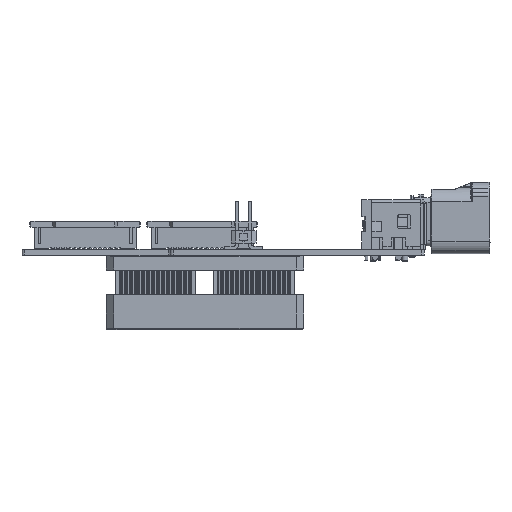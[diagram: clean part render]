
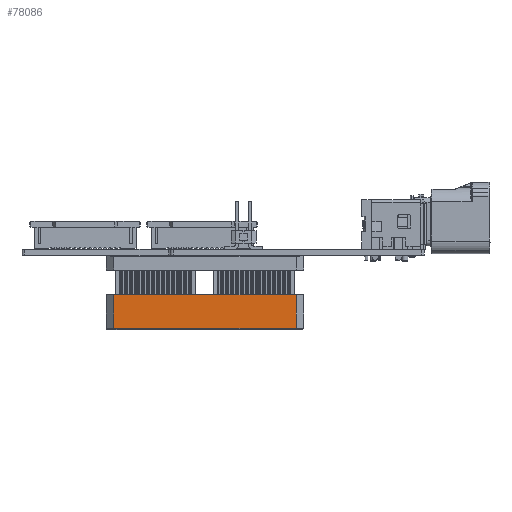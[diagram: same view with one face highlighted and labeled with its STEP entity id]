
A CAD part, left-side view. The second image highlights one B-rep face of the part: STEP entity #78086.
In plain terms, the highlighted planar face has unit normal (-1, 0, 0) as drawn and (0, 0, -1) by its records, which use the part's own axes.
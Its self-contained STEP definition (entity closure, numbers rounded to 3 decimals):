
#4699=FACE_OUTER_BOUND('',#8800,.T.);
#8800=EDGE_LOOP('',(#67575,#67576,#67577,#67578));
#17377=LINE('',#133028,#27255);
#17381=LINE('',#133036,#27259);
#17383=LINE('',#133039,#27261);
#17384=LINE('',#133040,#27262);
#27255=VECTOR('',#101053,1000.);
#27259=VECTOR('',#101061,1000.);
#27261=VECTOR('',#101065,1000.);
#27262=VECTOR('',#101066,1000.);
#36379=VERTEX_POINT('',#133024);
#36380=VERTEX_POINT('',#133026);
#36381=VERTEX_POINT('',#133033);
#36382=VERTEX_POINT('',#133035);
#46995=EDGE_CURVE('',#36380,#36379,#17377,.T.);
#46999=EDGE_CURVE('',#36382,#36381,#17381,.T.);
#47001=EDGE_CURVE('',#36379,#36381,#17383,.T.);
#47002=EDGE_CURVE('',#36382,#36380,#17384,.T.);
#67575=ORIENTED_EDGE('',*,*,#47001,.F.);
#67576=ORIENTED_EDGE('',*,*,#46995,.F.);
#67577=ORIENTED_EDGE('',*,*,#47002,.F.);
#67578=ORIENTED_EDGE('',*,*,#46999,.T.);
#74143=PLANE('',#83496);
#78086=ADVANCED_FACE('',(#4699),#74143,.F.);
#83496=AXIS2_PLACEMENT_3D('',#133038,#101063,#101064);
#101053=DIRECTION('',(0.,-1.,0.));
#101061=DIRECTION('',(0.,-1.,0.));
#101063=DIRECTION('center_axis',(0.,0.,1.));
#101064=DIRECTION('ref_axis',(1.,0.,0.));
#101065=DIRECTION('',(1.,0.,0.));
#101066=DIRECTION('',(-1.,0.,0.));
#133024=CARTESIAN_POINT('',(-18.479,7.978,-2.985));
#133026=CARTESIAN_POINT('',(-18.479,14.785,-2.985));
#133028=CARTESIAN_POINT('',(-18.479,14.785,-2.985));
#133033=CARTESIAN_POINT('',(18.479,7.978,-2.985));
#133035=CARTESIAN_POINT('',(18.479,14.785,-2.985));
#133036=CARTESIAN_POINT('',(18.479,14.785,-2.985));
#133038=CARTESIAN_POINT('Origin',(18.479,14.785,-2.985));
#133039=CARTESIAN_POINT('',(18.479,7.978,-2.985));
#133040=CARTESIAN_POINT('',(18.479,14.785,-2.985));
